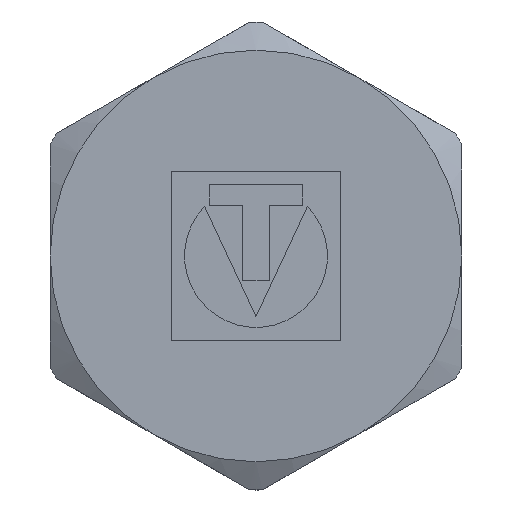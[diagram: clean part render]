
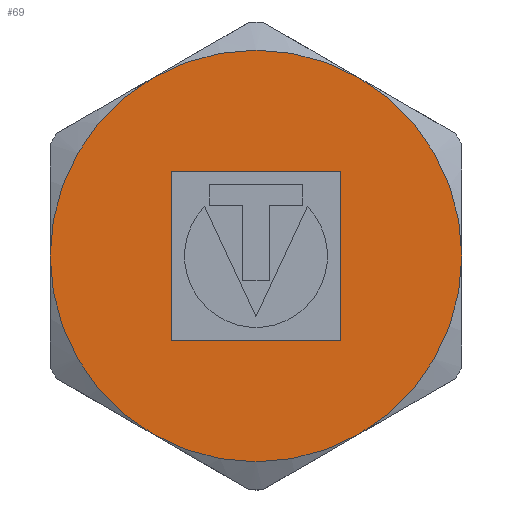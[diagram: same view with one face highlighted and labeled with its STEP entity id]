
A CAD part, front view. The second image highlights one B-rep face of the part: STEP entity #69.
In plain terms, the highlighted planar face has unit normal (0, -1, 0).
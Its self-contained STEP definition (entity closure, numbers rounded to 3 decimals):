
#69=ADVANCED_FACE('',(#268,#270),#272,.F.);
#268=FACE_BOUND('',#269,.T.);
#269=EDGE_LOOP('',(#528,#529,#530,#531));
#270=FACE_BOUND('',#271,.T.);
#271=EDGE_LOOP('',(#532,#533,#534,#535));
#272=PLANE('',#273);
#273=AXIS2_PLACEMENT_3D('',#274,#275,#276);
#274=CARTESIAN_POINT('',(0.,0.,0.));
#275=DIRECTION('',(0.,1.,0.));
#276=DIRECTION('',(-1.,0.,0.));
#528=ORIENTED_EDGE('',*,*,#682,.T.);
#529=ORIENTED_EDGE('',*,*,#681,.T.);
#530=ORIENTED_EDGE('',*,*,#680,.T.);
#531=ORIENTED_EDGE('',*,*,#679,.T.);
#532=ORIENTED_EDGE('',*,*,#683,.F.);
#533=ORIENTED_EDGE('',*,*,#684,.F.);
#534=ORIENTED_EDGE('',*,*,#685,.F.);
#535=ORIENTED_EDGE('',*,*,#686,.F.);
#679=EDGE_CURVE('',#777,#808,#820,.F.);
#680=EDGE_CURVE('',#786,#777,#821,.F.);
#681=EDGE_CURVE('',#794,#786,#822,.F.);
#682=EDGE_CURVE('',#808,#794,#823,.F.);
#683=EDGE_CURVE('',#824,#825,#826,.F.);
#684=EDGE_CURVE('',#827,#824,#828,.F.);
#685=EDGE_CURVE('',#829,#827,#830,.F.);
#686=EDGE_CURVE('',#825,#829,#831,.F.);
#777=VERTEX_POINT('',#1320);
#786=VERTEX_POINT('',#1388);
#794=VERTEX_POINT('',#1464);
#808=VERTEX_POINT('',#1580);
#820=CIRCLE('',#1708,18.25);
#821=CIRCLE('',#1712,18.25);
#822=CIRCLE('',#1716,18.25);
#823=CIRCLE('',#1720,18.25);
#824=VERTEX_POINT('',#1724);
#825=VERTEX_POINT('',#1725);
#826=LINE('',#1726,#1727);
#827=VERTEX_POINT('',#1729);
#828=LINE('',#1730,#1731);
#829=VERTEX_POINT('',#1733);
#830=LINE('',#1734,#1735);
#831=LINE('',#1737,#1738);
#1320=CARTESIAN_POINT('',(-9.125,0.,-15.805));
#1388=CARTESIAN_POINT('',(-18.25,0.,0.));
#1464=CARTESIAN_POINT('',(-9.125,0.,15.805));
#1580=CARTESIAN_POINT('',(18.25,0.,0.));
#1708=AXIS2_PLACEMENT_3D('',#1709,#1710,#1711);
#1709=CARTESIAN_POINT('',(0.,0.,0.));
#1710=DIRECTION('',(0.,1.,0.));
#1711=DIRECTION('',(1.,0.,0.));
#1712=AXIS2_PLACEMENT_3D('',#1713,#1714,#1715);
#1713=CARTESIAN_POINT('',(0.,0.,0.));
#1714=DIRECTION('',(0.,1.,0.));
#1715=DIRECTION('',(-0.5,0.,-0.866));
#1716=AXIS2_PLACEMENT_3D('',#1717,#1718,#1719);
#1717=CARTESIAN_POINT('',(0.,0.,0.));
#1718=DIRECTION('',(0.,1.,0.));
#1719=DIRECTION('',(-1.,0.,0.));
#1720=AXIS2_PLACEMENT_3D('',#1721,#1722,#1723);
#1721=CARTESIAN_POINT('',(0.,0.,0.));
#1722=DIRECTION('',(0.,1.,0.));
#1723=DIRECTION('',(-0.5,0.,0.866));
#1724=CARTESIAN_POINT('',(7.499,0.,-7.499));
#1725=CARTESIAN_POINT('',(7.499,0.,7.499));
#1726=CARTESIAN_POINT('',(7.499,0.,7.499));
#1727=VECTOR('',#1728,1.);
#1728=DIRECTION('',(0.,0.,-1.));
#1729=CARTESIAN_POINT('',(-7.499,0.,-7.499));
#1730=CARTESIAN_POINT('',(7.499,0.,-7.499));
#1731=VECTOR('',#1732,1.);
#1732=DIRECTION('',(-1.,0.,0.));
#1733=CARTESIAN_POINT('',(-7.499,0.,7.499));
#1734=CARTESIAN_POINT('',(-7.499,0.,-7.499));
#1735=VECTOR('',#1736,1.);
#1736=DIRECTION('',(0.,0.,1.));
#1737=CARTESIAN_POINT('',(-7.499,0.,7.499));
#1738=VECTOR('',#1739,1.);
#1739=DIRECTION('',(1.,0.,0.));
